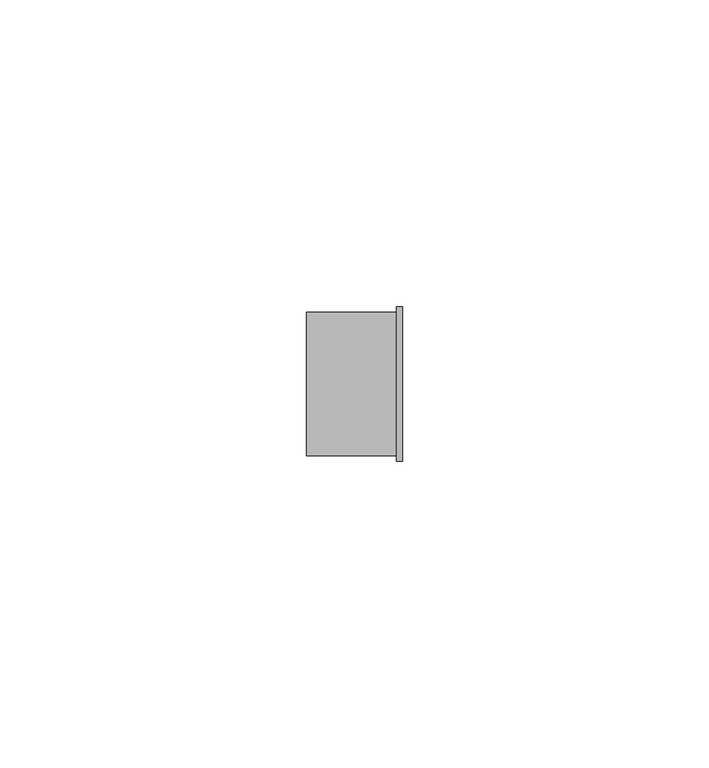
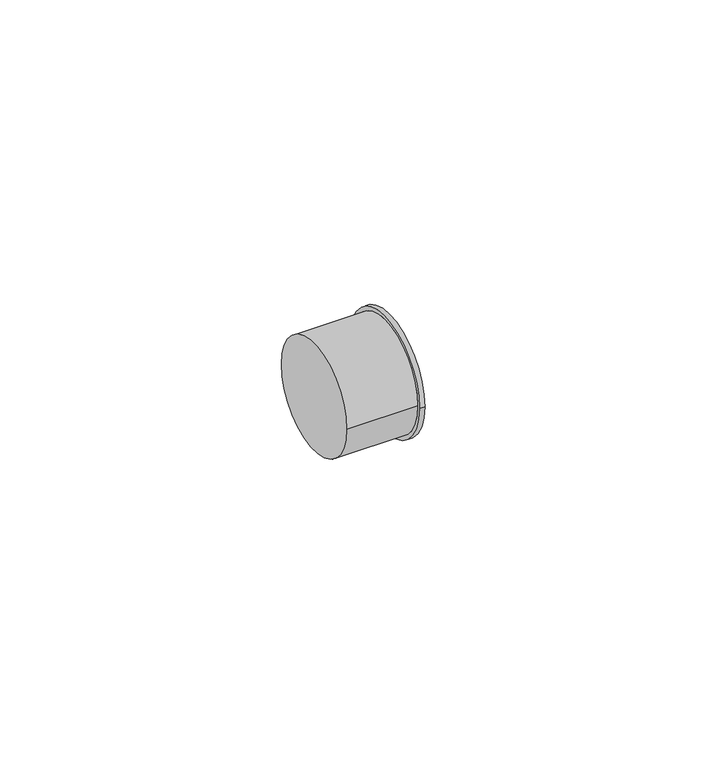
"""IFC4 building model written with IfcOpenShell, lengths in millimetres: pipe fitting geometry, Bucha de redução reta - Soldada - CU : Padrão."""

from ifc_helpers import new_model, si_unit, frame, origin, place, context, project, spatial, circle_curve, source, transform, mapped, element, save
from ifc_brep_helpers import plane_surface, cylinder_surface, advanced_brep


def pipe_fitting_c5895cb6(model_context):
    return source(origin(), model_context, "Body", "AdvancedBrep", [
        advanced_brep(
        [(0.0, -11.7322, 0.0), (0.0, 11.7322, 0.0), (14.6434, -11.7322, 0.0), (14.6434, 11.7322, 0.0), (15.6434, -12.6, 0.0), (15.6434, 12.6, 0.0), (14.6434, 12.6, 0.0), (14.6434, -12.6, 0.0)],
        [
            (0, 1, circle_curve(frame((0.0, 0.0, 0.0), z_axis=(-1.0, 0.0, 0.0), x_axis=(0.0, 1.0, 0.0)), 11.7322)),
            (1, 0, circle_curve(frame((0.0, 0.0, 0.0), z_axis=(-1.0, 0.0, 0.0), x_axis=(0.0, 1.0, 0.0)), 11.7322)),
            (0, 2),
            (2, 3, circle_curve(frame((14.6434, 0.0, 0.0), z_axis=(-1.0, 0.0, 0.0), x_axis=(0.0, 1.0, 0.0)), 11.7322)),
            (3, 1),
            (3, 2, circle_curve(frame((14.6434, 0.0, 0.0), z_axis=(-1.0, 0.0, 0.0), x_axis=(0.0, 1.0, 0.0)), 11.7322)),
            (4, 5, circle_curve(frame((15.6434, 0.0, 0.0), z_axis=(1.0, 0.0, 0.0), x_axis=(0.0, 1.0, 0.0)), 12.6)),
            (5, 4, circle_curve(frame((15.6434, 0.0, 0.0), z_axis=(1.0, 0.0, 0.0), x_axis=(0.0, 1.0, 0.0)), 12.6)),
            (6, 7, circle_curve(frame((14.6434, 0.0, 0.0), z_axis=(1.0, 0.0, 0.0), x_axis=(0.0, 1.0, 0.0)), 12.6)),
            (7, 4),
            (5, 6),
            (7, 6, circle_curve(frame((14.6434, 0.0, 0.0), z_axis=(1.0, 0.0, 0.0), x_axis=(0.0, 1.0, 0.0)), 12.6)),
        ],
        [
            plane_surface(frame((0.0, 0.0, 0.0), z_axis=(-1.0, 0.0, 0.0), x_axis=(0.0, 0.0, 1.0))),
            cylinder_surface(frame((0.0, 0.0, 0.0), z_axis=(-1.0, 0.0, 0.0), x_axis=(0.0, 1.0, 0.0)), 11.7322),
            plane_surface(frame((15.6434, 0.0, 0.0), z_axis=(1.0, 0.0, 0.0), x_axis=(0.0, 0.0, 1.0))),
            cylinder_surface(frame((14.6434, 0.0, 0.0), z_axis=(-1.0, 0.0, 0.0), x_axis=(0.0, 1.0, 0.0)), 12.6),
            plane_surface(frame((14.6434, 0.0, 0.0), z_axis=(-1.0, 0.0, 0.0), x_axis=(0.0, 0.0, 1.0))),
        ],
        [
            (0, [[1, 2]]),
            (1, [[-1, 3, 4, 5]]),
            (1, [[-2, -5, 6, -3]]),
            (2, [[7, 8]]),
            (3, [[9, 10, -8, 11]]),
            (3, [[12, -11, -7, -10]]),
            (4, [[-9, -12], [-4, -6]]),
        ],
    ),
    ])


if __name__ == "__main__":
    model = new_model("IFC4")
    model_context = context("Model", 3, world=origin())
    ifc_project = project(units=[si_unit("LENGTHUNIT", "METRE", prefix="MILLI")], contexts=[model_context])
    site = spatial("IfcSite", under=ifc_project)
    building = spatial("IfcBuilding", under=site)
    placement = place(None, origin())
    pipe_fitting_shape = pipe_fitting_c5895cb6(model_context)
    element("IfcPipeFitting", 1, ObjectType="Bucha de redução reta - Soldada - CU : Padrão", at=placement, inside=building, context=model_context, shape_type="MappedRepresentation", body=[
        mapped(pipe_fitting_shape, transform((0.0, 0.0, 0.0), x_axis=(1.0, 0.0, 0.0), y_axis=(0.0, 1.0, 0.0), z_axis=(0.0, 0.0, 1.0))),
    ])
    save(model, "model.ifc")
